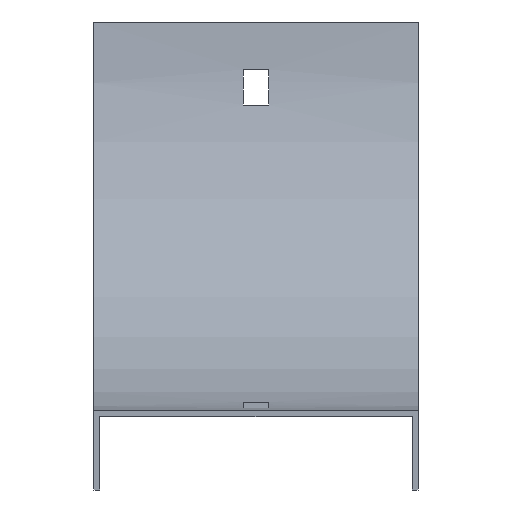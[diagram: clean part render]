
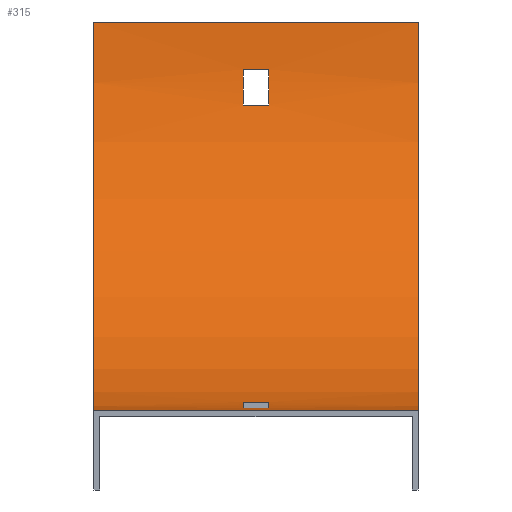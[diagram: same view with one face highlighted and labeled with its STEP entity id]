
A CAD part, top view. The second image highlights one B-rep face of the part: STEP entity #315.
In plain terms, the highlighted cylindrical face has radius 98.5 mm (diameter 197 mm), a partial arc.
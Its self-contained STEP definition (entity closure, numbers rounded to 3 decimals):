
#7 = CIRCLE ( 'NONE', #216, 98.5 ) ;
#8 = VERTEX_POINT ( 'NONE', #69 ) ;
#22 = CARTESIAN_POINT ( 'NONE',  ( 3.25, 2.265, -21. ) ) ;
#26 = AXIS2_PLACEMENT_3D ( 'NONE', #364, #313, #84 ) ;
#31 = CIRCLE ( 'NONE', #516, 98.5 ) ;
#39 = EDGE_LOOP ( 'NONE', ( #567, #386, #450, #575 ) ) ;
#44 = CARTESIAN_POINT ( 'NONE',  ( -3.25, 77.5, -96.235 ) ) ;
#45 = ORIENTED_EDGE ( 'NONE', *, *, #571, .T. ) ;
#49 = CARTESIAN_POINT ( 'NONE',  ( -3.25, 86.5, -97.766 ) ) ;
#51 = VERTEX_POINT ( 'NONE', #22 ) ;
#55 = CARTESIAN_POINT ( 'NONE',  ( -3.25, 98.5, 0. ) ) ;
#57 = ORIENTED_EDGE ( 'NONE', *, *, #249, .F. ) ;
#61 = VECTOR ( 'NONE', #82, 1000. ) ;
#67 = CARTESIAN_POINT ( 'NONE',  ( 3.25, 86.5, -97.766 ) ) ;
#69 = CARTESIAN_POINT ( 'NONE',  ( -3.25, 0.734, -12. ) ) ;
#71 = EDGE_CURVE ( 'NONE', #219, #8, #298, .T. ) ;
#72 = DIRECTION ( 'NONE',  ( -1., 0., 0. ) ) ;
#82 = DIRECTION ( 'NONE',  ( 1., 0., 0. ) ) ;
#84 = DIRECTION ( 'NONE',  ( 0., 0., 1. ) ) ;
#96 = CYLINDRICAL_SURFACE ( 'NONE', #100, 98.5 ) ;
#100 = AXIS2_PLACEMENT_3D ( 'NONE', #243, #532, #425 ) ;
#110 = ORIENTED_EDGE ( 'NONE', *, *, #273, .T. ) ;
#125 = CARTESIAN_POINT ( 'NONE',  ( 41., 2.265, -21. ) ) ;
#126 = DIRECTION ( 'NONE',  ( -1., 0., 0. ) ) ;
#138 = EDGE_CURVE ( 'NONE', #423, #51, #510, .T. ) ;
#140 = CIRCLE ( 'NONE', #371, 98.5 ) ;
#141 = AXIS2_PLACEMENT_3D ( 'NONE', #55, #247, #428 ) ;
#147 = ORIENTED_EDGE ( 'NONE', *, *, #71, .T. ) ;
#155 = AXIS2_PLACEMENT_3D ( 'NONE', #387, #72, #581 ) ;
#156 = CARTESIAN_POINT ( 'NONE',  ( 3.25, 98.5, 0. ) ) ;
#163 = EDGE_CURVE ( 'NONE', #201, #461, #182, .T. ) ;
#180 = CARTESIAN_POINT ( 'NONE',  ( 41., 86.5, -97.766 ) ) ;
#181 = EDGE_CURVE ( 'NONE', #512, #604, #504, .T. ) ;
#182 = LINE ( 'NONE', #468, #61 ) ;
#198 = ORIENTED_EDGE ( 'NONE', *, *, #138, .T. ) ;
#201 = VERTEX_POINT ( 'NONE', #44 ) ;
#216 = AXIS2_PLACEMENT_3D ( 'NONE', #263, #444, #297 ) ;
#217 = VERTEX_POINT ( 'NONE', #232 ) ;
#219 = VERTEX_POINT ( 'NONE', #603 ) ;
#221 = EDGE_LOOP ( 'NONE', ( #500, #434, #57, #294 ) ) ;
#224 = EDGE_LOOP ( 'NONE', ( #147, #45, #198, #110 ) ) ;
#226 = CARTESIAN_POINT ( 'NONE',  ( 41., 0., 0. ) ) ;
#232 = CARTESIAN_POINT ( 'NONE',  ( -41., 98.5, -98.5 ) ) ;
#243 = CARTESIAN_POINT ( 'NONE',  ( 41., 98.5, 0. ) ) ;
#246 = VECTOR ( 'NONE', #400, 1000. ) ;
#247 = DIRECTION ( 'NONE',  ( -1., 0., 0. ) ) ;
#249 = EDGE_CURVE ( 'NONE', #461, #431, #31, .T. ) ;
#250 = DIRECTION ( 'NONE',  ( 1., 0., 0. ) ) ;
#263 = CARTESIAN_POINT ( 'NONE',  ( 41., 98.5, 0. ) ) ;
#273 = EDGE_CURVE ( 'NONE', #51, #219, #140, .T. ) ;
#282 = DIRECTION ( 'NONE',  ( 0., 0., -1. ) ) ;
#294 = ORIENTED_EDGE ( 'NONE', *, *, #163, .F. ) ;
#297 = DIRECTION ( 'NONE',  ( 0., 0., 1. ) ) ;
#298 = LINE ( 'NONE', #357, #363 ) ;
#312 = DIRECTION ( 'NONE',  ( 1., 0., 0. ) ) ;
#313 = DIRECTION ( 'NONE',  ( 1., 0., 0. ) ) ;
#315 = ADVANCED_FACE ( 'NONE', ( #430, #339, #482 ), #96, .F. ) ;
#332 = DIRECTION ( 'NONE',  ( -1., 0., 0. ) ) ;
#336 = EDGE_CURVE ( 'NONE', #586, #201, #432, .T. ) ;
#339 = FACE_BOUND ( 'NONE', #224, .T. ) ;
#341 = EDGE_CURVE ( 'NONE', #217, #604, #426, .T. ) ;
#357 = CARTESIAN_POINT ( 'NONE',  ( 41., 0.734, -12. ) ) ;
#360 = EDGE_CURVE ( 'NONE', #523, #512, #7, .T. ) ;
#363 = VECTOR ( 'NONE', #549, 1000. ) ;
#364 = CARTESIAN_POINT ( 'NONE',  ( -3.25, 98.5, 0. ) ) ;
#369 = CARTESIAN_POINT ( 'NONE',  ( 3.25, 77.5, -96.235 ) ) ;
#371 = AXIS2_PLACEMENT_3D ( 'NONE', #156, #332, #282 ) ;
#374 = DIRECTION ( 'NONE',  ( 0., 0., 1. ) ) ;
#379 = CARTESIAN_POINT ( 'NONE',  ( -41., 0., 0. ) ) ;
#386 = ORIENTED_EDGE ( 'NONE', *, *, #181, .F. ) ;
#387 = CARTESIAN_POINT ( 'NONE',  ( -41., 98.5, 0. ) ) ;
#400 = DIRECTION ( 'NONE',  ( -1., 0., 0. ) ) ;
#405 = CARTESIAN_POINT ( 'NONE',  ( 41., 98.5, -98.5 ) ) ;
#413 = DIRECTION ( 'NONE',  ( -1., 0., 0. ) ) ;
#423 = VERTEX_POINT ( 'NONE', #440 ) ;
#425 = DIRECTION ( 'NONE',  ( 0., 0., 1. ) ) ;
#426 = CIRCLE ( 'NONE', #155, 98.5 ) ;
#428 = DIRECTION ( 'NONE',  ( 0., 1., 0. ) ) ;
#430 = FACE_OUTER_BOUND ( 'NONE', #39, .T. ) ;
#431 = VERTEX_POINT ( 'NONE', #67 ) ;
#432 = CIRCLE ( 'NONE', #141, 98.5 ) ;
#434 = ORIENTED_EDGE ( 'NONE', *, *, #466, .F. ) ;
#440 = CARTESIAN_POINT ( 'NONE',  ( -3.25, 2.265, -21. ) ) ;
#444 = DIRECTION ( 'NONE',  ( -1., 0., 0. ) ) ;
#450 = ORIENTED_EDGE ( 'NONE', *, *, #360, .F. ) ;
#457 = CARTESIAN_POINT ( 'NONE',  ( 41., 0., 0. ) ) ;
#458 = LINE ( 'NONE', #405, #473 ) ;
#461 = VERTEX_POINT ( 'NONE', #369 ) ;
#466 = EDGE_CURVE ( 'NONE', #431, #586, #503, .T. ) ;
#468 = CARTESIAN_POINT ( 'NONE',  ( 41., 77.5, -96.235 ) ) ;
#470 = CARTESIAN_POINT ( 'NONE',  ( 41., 98.5, -98.5 ) ) ;
#473 = VECTOR ( 'NONE', #126, 1000. ) ;
#474 = CIRCLE ( 'NONE', #26, 98.5 ) ;
#479 = VECTOR ( 'NONE', #312, 1000. ) ;
#482 = FACE_BOUND ( 'NONE', #221, .T. ) ;
#500 = ORIENTED_EDGE ( 'NONE', *, *, #336, .F. ) ;
#503 = LINE ( 'NONE', #180, #246 ) ;
#504 = LINE ( 'NONE', #457, #553 ) ;
#510 = LINE ( 'NONE', #125, #479 ) ;
#512 = VERTEX_POINT ( 'NONE', #226 ) ;
#516 = AXIS2_PLACEMENT_3D ( 'NONE', #527, #250, #374 ) ;
#523 = VERTEX_POINT ( 'NONE', #470 ) ;
#527 = CARTESIAN_POINT ( 'NONE',  ( 3.25, 98.5, 0. ) ) ;
#532 = DIRECTION ( 'NONE',  ( -1., 0., 0. ) ) ;
#549 = DIRECTION ( 'NONE',  ( -1., 0., 0. ) ) ;
#553 = VECTOR ( 'NONE', #413, 1000. ) ;
#557 = EDGE_CURVE ( 'NONE', #523, #217, #458, .T. ) ;
#567 = ORIENTED_EDGE ( 'NONE', *, *, #341, .T. ) ;
#571 = EDGE_CURVE ( 'NONE', #8, #423, #474, .T. ) ;
#575 = ORIENTED_EDGE ( 'NONE', *, *, #557, .T. ) ;
#581 = DIRECTION ( 'NONE',  ( 0., 0., 1. ) ) ;
#586 = VERTEX_POINT ( 'NONE', #49 ) ;
#603 = CARTESIAN_POINT ( 'NONE',  ( 3.25, 0.734, -12. ) ) ;
#604 = VERTEX_POINT ( 'NONE', #379 ) ;
